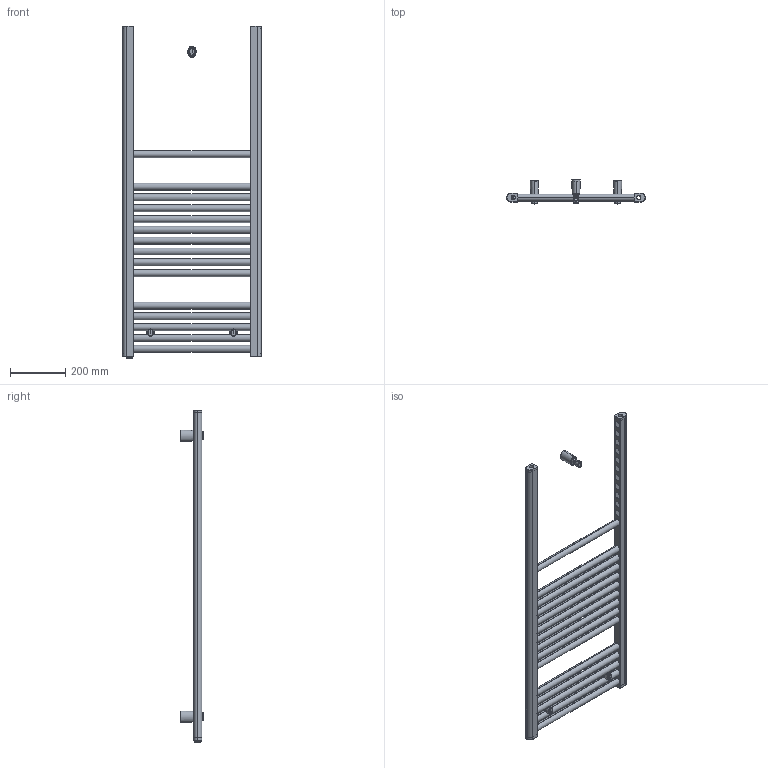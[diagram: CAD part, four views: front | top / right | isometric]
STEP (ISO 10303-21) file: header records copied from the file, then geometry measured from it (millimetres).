
FILE_DESCRIPTION (( 'STEP AP203' ), '1' );
FILE_NAME ('501225.STEP', '2026-03-06T08:23:39', ( '' ), ( '' ), 'SwSTEP 2.0', 'SolidWorks 2025', '' );
FILE_SCHEMA (( 'CONFIG_CONTROL_DESIGN' ));
Length unit declared in the file: millimetre
Products named in the file (12): TRAVERSINO-ULISSE; countersunk flat head cross recess screw_iso_ISO 7046-1 - M6 x 35 - Z - 35N; ASSIEME-COLLETTORE-ULISSE-tappato; BASE-SUPPORTO-ULISSE; ASSIEME-COLLETTORE-ULISSE-tappato_TAPPATO; CURSORE-SUPPORTO-ULISSE; COPERCHIO-SUPPORTO-ULISSE^SUPPORTO-ULISSE; 501225; TAPPO-SUPPORTO-ULISSE; tappo_sfiato.prt.prt; SUPPORTO-ULISSE; COLLETTORE-ULISSE
Assembly tree (28 placements, depth 3):
  501225
    ASSIEME-COLLETTORE-ULISSE-tappato
      COLLETTORE-ULISSE
    ASSIEME-COLLETTORE-ULISSE-tappato_TAPPATO
      COLLETTORE-ULISSE
    TRAVERSINO-ULISSE  x15
    SUPPORTO-ULISSE  x3
      BASE-SUPPORTO-ULISSE
      CURSORE-SUPPORTO-ULISSE
      TAPPO-SUPPORTO-ULISSE
      countersunk flat head cross recess screw_iso_ISO 7046-1 - M6 x 35 - Z - 35N
      COPERCHIO-SUPPORTO-ULISSE^SUPPORTO-ULISSE
    tappo_sfiato.prt.prt
Bounding box: 500 x 85 x 1197 mm (x, y, z)
Volume: 1250866.2 mm3; surface area: 1556309 mm2
Topology: 33 solids, 33 shells, 735 faces, 1746 edges, 1098 vertices
Faces by surface type: cylinder 304, plane 192, bspline 129, cone 58, torus 46, sphere 6
Entity records: 20057 total; most frequent: CARTESIAN_POINT 10795, ORIENTED_EDGE 1612, DIRECTION 1478, EDGE_CURVE 806, AXIS2_PLACEMENT_3D 611, VERTEX_POINT 510, EDGE_LOOP 406, FACE_OUTER_BOUND 328
